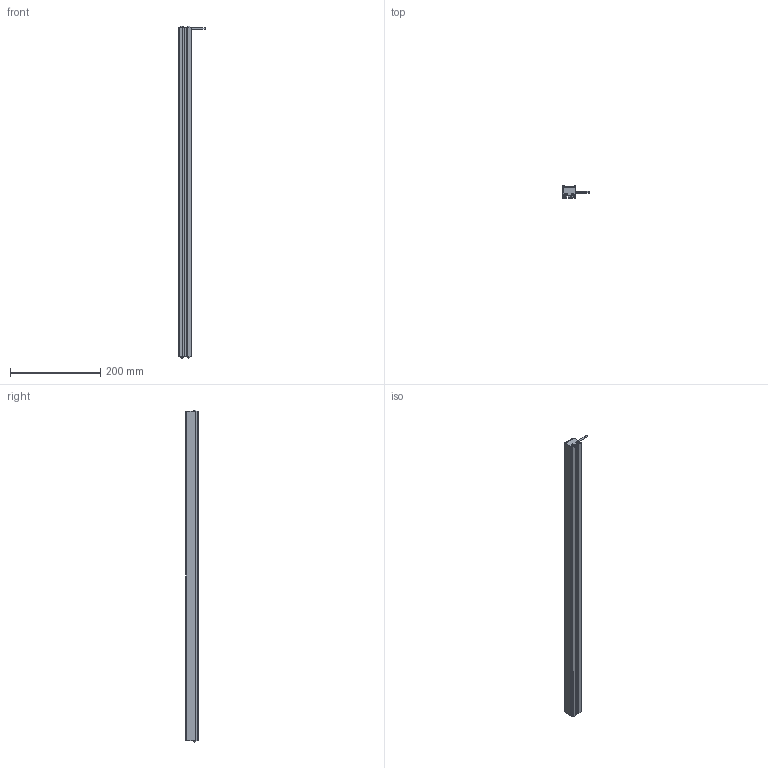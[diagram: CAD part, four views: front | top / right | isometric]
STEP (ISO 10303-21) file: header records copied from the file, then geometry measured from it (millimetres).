
FILE_DESCRIPTION((''),'2;1');
FILE_NAME('MV-LLDS-732-28_ASM','2020-12-31T',('Administrator'),(''),'PRO/ENGINEER BY PARAMETRIC TECHNOLOGY CORPORATION, 2010100','PRO/ENGINEER BY PARAMETRIC TECHNOLOGY CORPORATION, 2010100','');
FILE_SCHEMA(('CONFIG_CONTROL_DESIGN'));
Length unit declared in the file: millimetre
Products named in the file (3): BL-4__3_; M3-5_3; MV-LLDS-732-28_ASM
Assembly tree (5 placements, depth 2):
  MV-LLDS-732-28_ASM
    BL-4__3_
    M3-5_3  x4
Bounding box: 58 x 27 x 736.68 mm (x, y, z)
Volume: 458516.7 mm3; surface area: 170334.6 mm2
Topology: 5 solids, 13 shells, 303 faces, 802 edges, 516 vertices
Faces by surface type: plane 185, cylinder 70, cone 16, bspline 16, torus 8, sphere 8
Entity records: 6718 total; most frequent: CARTESIAN_POINT 1430, ORIENTED_EDGE 1074, DIRECTION 1069, EDGE_CURVE 547, VECTOR 397, LINE 397, VERTEX_POINT 357, AXIS2_PLACEMENT_3D 336
